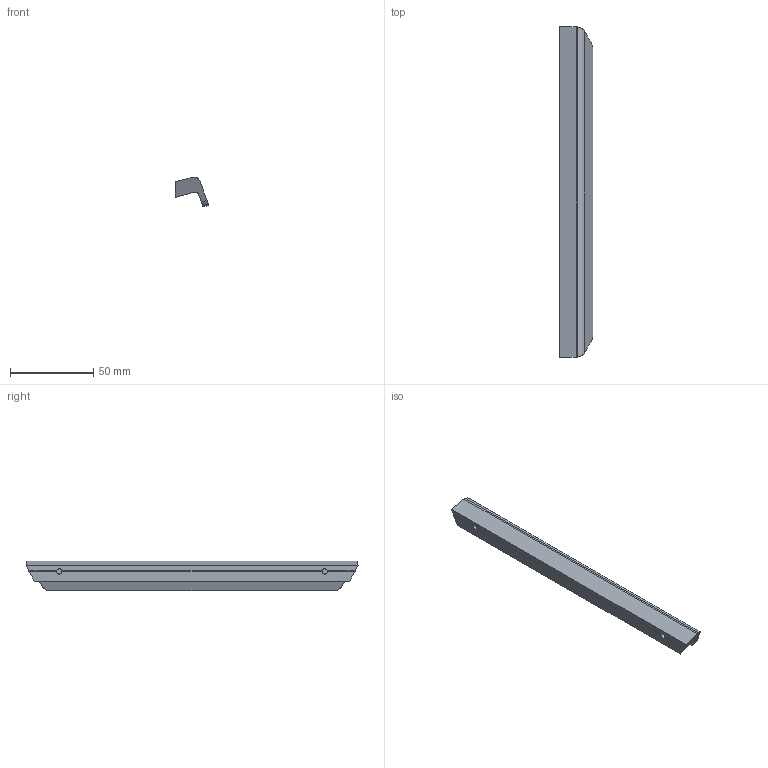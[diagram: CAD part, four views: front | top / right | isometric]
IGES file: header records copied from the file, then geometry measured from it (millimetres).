
Start section: C
Global section: file name: 8362-RE23.igs; native system: By Siemens PLM Incorporated; preprocessor: XPlus GENERIC/IGES 16.0.42; author: Author; organization: Title; date: 20250219.135400; units: millimetre
Bounding box: 20 x 200 x 17.96 mm (x, y, z)
Surface area: 13412.8 mm2 (no closed solid volume)
Topology: 0 solids, 0 shells, 27 faces, 154 edges, 154 vertices
Faces by surface type: bspline 27
